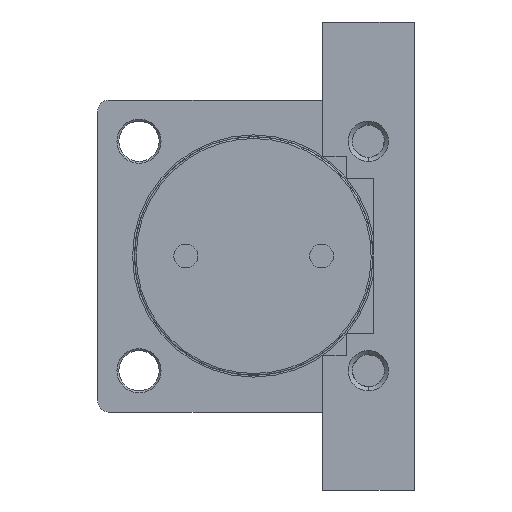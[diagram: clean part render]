
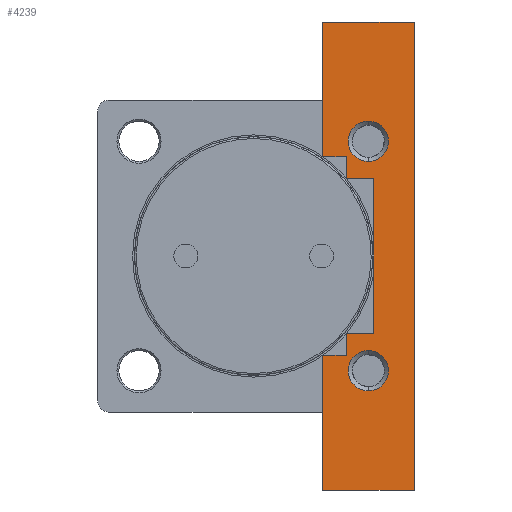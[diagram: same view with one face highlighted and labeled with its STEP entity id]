
A CAD part, left-side view. The second image highlights one B-rep face of the part: STEP entity #4239.
In plain terms, the highlighted planar face has unit normal (1, 0, 0).
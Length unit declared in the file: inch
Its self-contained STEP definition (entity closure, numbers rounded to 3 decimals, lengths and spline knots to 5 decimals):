
#150 = VECTOR ( 'NONE', #2324, 39.37008 ) ;
#483 = LINE ( 'NONE', #2367, #150 ) ;
#717 = CARTESIAN_POINT ( 'NONE',  ( -3.01181, -2.46063, 2.8937 ) ) ;
#722 = VECTOR ( 'NONE', #2027, 39.37008 ) ;
#734 = CIRCLE ( 'NONE', #12806, 0.43307 ) ;
#800 = CARTESIAN_POINT ( 'NONE',  ( -3.01181, -1.47638, 2.12598 ) ) ;
#801 = CARTESIAN_POINT ( 'NONE',  ( -3.01181, -3.44488, 1.65354 ) ) ;
#870 = VECTOR ( 'NONE', #11531, 39.37008 ) ;
#871 = CARTESIAN_POINT ( 'NONE',  ( -3.01181, -2.46063, 2.02756 ) ) ;
#901 = VERTEX_POINT ( 'NONE', #10561 ) ;
#944 = LINE ( 'NONE', #2156, #722 ) ;
#960 = LINE ( 'NONE', #11453, #870 ) ;
#1038 = CARTESIAN_POINT ( 'NONE',  ( -3.01181, -3.44488, -5.01969 ) ) ;
#1412 = CARTESIAN_POINT ( 'NONE',  ( -3.01181, -1.47638, 5.01969 ) ) ;
#1699 = DIRECTION ( 'NONE',  ( 0., 1., 0. ) ) ;
#2027 = DIRECTION ( 'NONE',  ( 0., 0., 1. ) ) ;
#2102 = DIRECTION ( 'NONE',  ( 0., 1., 0. ) ) ;
#2156 = CARTESIAN_POINT ( 'NONE',  ( -3.01181, -1.98819, 5.01969 ) ) ;
#2324 = DIRECTION ( 'NONE',  ( 0., -1., 0. ) ) ;
#2367 = CARTESIAN_POINT ( 'NONE',  ( -3.01181, -3.44488, -2.12598 ) ) ;
#2377 = ORIENTED_EDGE ( 'NONE', *, *, #8111, .T. ) ;
#2452 = ORIENTED_EDGE ( 'NONE', *, *, #10314, .T. ) ;
#2490 = ORIENTED_EDGE ( 'NONE', *, *, #10133, .T. ) ;
#2673 = VERTEX_POINT ( 'NONE', #10627 ) ;
#2735 = EDGE_CURVE ( 'NONE', #3660, #901, #5027, .T. ) ;
#3374 = CARTESIAN_POINT ( 'NONE',  ( -3.01181, -1.47638, -5.01969 ) ) ;
#3478 = CARTESIAN_POINT ( 'NONE',  ( -3.01181, -1.98819, 5.01969 ) ) ;
#3655 = VECTOR ( 'NONE', #11268, 39.37008 ) ;
#3660 = VERTEX_POINT ( 'NONE', #9380 ) ;
#3769 = EDGE_CURVE ( 'NONE', #2673, #5189, #7166, .T. ) ;
#3811 = EDGE_CURVE ( 'NONE', #4754, #14113, #7303, .T. ) ;
#3881 = CARTESIAN_POINT ( 'NONE',  ( -3.01181, -1.47638, 5.01969 ) ) ;
#3957 = EDGE_CURVE ( 'NONE', #11694, #2673, #7638, .T. ) ;
#4166 = AXIS2_PLACEMENT_3D ( 'NONE', #5586, #5355, #5330 ) ;
#4239 = ADVANCED_FACE ( 'NONE', ( #7959, #8013, #7877 ), #5460, .T. ) ;
#4447 = LINE ( 'NONE', #1038, #7365 ) ;
#4513 = VERTEX_POINT ( 'NONE', #3374 ) ;
#4546 = CARTESIAN_POINT ( 'NONE',  ( -3.01181, -1.98819, -2.12598 ) ) ;
#4754 = VERTEX_POINT ( 'NONE', #1412 ) ;
#4949 = VERTEX_POINT ( 'NONE', #871 ) ;
#4979 = ORIENTED_EDGE ( 'NONE', *, *, #11383, .T. ) ;
#5027 = CIRCLE ( 'NONE', #7010, 0.43307 ) ;
#5078 = VERTEX_POINT ( 'NONE', #4546 ) ;
#5189 = VERTEX_POINT ( 'NONE', #8088 ) ;
#5330 = DIRECTION ( 'NONE',  ( 0., 0., -1. ) ) ;
#5355 = DIRECTION ( 'NONE',  ( 1., 0., 0. ) ) ;
#5460 = PLANE ( 'NONE',  #4166 ) ;
#5478 = ORIENTED_EDGE ( 'NONE', *, *, #11099, .T. ) ;
#5586 = CARTESIAN_POINT ( 'NONE',  ( -3.01181, -3.44488, 5.01969 ) ) ;
#6239 = DIRECTION ( 'NONE',  ( 0., -1., 0. ) ) ;
#6243 = CARTESIAN_POINT ( 'NONE',  ( -3.01181, -3.44488, -1.65354 ) ) ;
#7010 = AXIS2_PLACEMENT_3D ( 'NONE', #9181, #9679, #9854 ) ;
#7059 = ORIENTED_EDGE ( 'NONE', *, *, #8154, .T. ) ;
#7061 = CARTESIAN_POINT ( 'NONE',  ( -3.01181, -3.44488, 5.01969 ) ) ;
#7166 = LINE ( 'NONE', #9049, #7337 ) ;
#7259 = DIRECTION ( 'NONE',  ( 0., 0., 1. ) ) ;
#7291 = CARTESIAN_POINT ( 'NONE',  ( -3.01181, -1.47638, 5.01969 ) ) ;
#7303 = LINE ( 'NONE', #8726, #7423 ) ;
#7337 = VECTOR ( 'NONE', #8815, 39.37008 ) ;
#7365 = VECTOR ( 'NONE', #2102, 39.37008 ) ;
#7366 = CARTESIAN_POINT ( 'NONE',  ( -3.01181, -3.44488, 2.12598 ) ) ;
#7423 = VECTOR ( 'NONE', #8613, 39.37008 ) ;
#7530 = VECTOR ( 'NONE', #6239, 39.37008 ) ;
#7555 = VERTEX_POINT ( 'NONE', #14266 ) ;
#7638 = LINE ( 'NONE', #6243, #7530 ) ;
#7657 = DIRECTION ( 'NONE',  ( 0., 1., 0. ) ) ;
#7724 = ORIENTED_EDGE ( 'NONE', *, *, #9700, .F. ) ;
#7780 = ORIENTED_EDGE ( 'NONE', *, *, #11332, .T. ) ;
#7877 = FACE_OUTER_BOUND ( 'NONE', #12377, .T. ) ;
#7959 = FACE_BOUND ( 'NONE', #11283, .T. ) ;
#8013 = FACE_BOUND ( 'NONE', #12572, .T. ) ;
#8088 = CARTESIAN_POINT ( 'NONE',  ( -3.01181, -2.57874, 1.65354 ) ) ;
#8111 = EDGE_CURVE ( 'NONE', #7555, #13026, #14206, .T. ) ;
#8154 = EDGE_CURVE ( 'NONE', #13026, #4754, #14064, .T. ) ;
#8257 = ORIENTED_EDGE ( 'NONE', *, *, #3957, .T. ) ;
#8462 = LINE ( 'NONE', #801, #12051 ) ;
#8516 = DIRECTION ( 'NONE',  ( 0., 0., 1. ) ) ;
#8531 = DIRECTION ( 'NONE',  ( -1., 0., 0. ) ) ;
#8535 = CARTESIAN_POINT ( 'NONE',  ( -3.01181, -2.46063, 2.46063 ) ) ;
#8560 = ORIENTED_EDGE ( 'NONE', *, *, #11143, .T. ) ;
#8613 = DIRECTION ( 'NONE',  ( 0., -1., 0. ) ) ;
#8726 = CARTESIAN_POINT ( 'NONE',  ( -3.01181, -3.44488, 5.01969 ) ) ;
#8790 = CARTESIAN_POINT ( 'NONE',  ( -3.01181, -1.98819, 1.65354 ) ) ;
#8815 = DIRECTION ( 'NONE',  ( 0., 0., 1. ) ) ;
#9003 = DIRECTION ( 'NONE',  ( 0., 0., 1. ) ) ;
#9014 = DIRECTION ( 'NONE',  ( -1., 0., 0. ) ) ;
#9016 = CARTESIAN_POINT ( 'NONE',  ( -3.01181, -2.46063, 2.46063 ) ) ;
#9049 = CARTESIAN_POINT ( 'NONE',  ( -3.01181, -2.57874, 5.01969 ) ) ;
#9181 = CARTESIAN_POINT ( 'NONE',  ( -3.01181, -2.46063, -2.46063 ) ) ;
#9219 = ORIENTED_EDGE ( 'NONE', *, *, #3769, .T. ) ;
#9271 = ORIENTED_EDGE ( 'NONE', *, *, #9771, .T. ) ;
#9380 = CARTESIAN_POINT ( 'NONE',  ( -3.01181, -2.46063, -2.8937 ) ) ;
#9469 = LINE ( 'NONE', #3478, #3655 ) ;
#9679 = DIRECTION ( 'NONE',  ( -1., 0., 0. ) ) ;
#9700 = EDGE_CURVE ( 'NONE', #10020, #14113, #960, .T. ) ;
#9768 = ORIENTED_EDGE ( 'NONE', *, *, #2735, .T. ) ;
#9771 = EDGE_CURVE ( 'NONE', #901, #3660, #734, .T. ) ;
#9795 = CARTESIAN_POINT ( 'NONE',  ( -3.01181, -3.44488, -5.01969 ) ) ;
#9854 = DIRECTION ( 'NONE',  ( 0., 0., 1. ) ) ;
#10020 = VERTEX_POINT ( 'NONE', #9795 ) ;
#10133 = EDGE_CURVE ( 'NONE', #13054, #4949, #14119, .T. ) ;
#10314 = EDGE_CURVE ( 'NONE', #4949, #13054, #13045, .T. ) ;
#10561 = CARTESIAN_POINT ( 'NONE',  ( -3.01181, -2.46063, -2.02756 ) ) ;
#10627 = CARTESIAN_POINT ( 'NONE',  ( -3.01181, -2.57874, -1.65354 ) ) ;
#10820 = AXIS2_PLACEMENT_3D ( 'NONE', #9016, #9014, #9003 ) ;
#10994 = DIRECTION ( 'NONE',  ( 0., 0., 1. ) ) ;
#11012 = DIRECTION ( 'NONE',  ( -1., 0., 0. ) ) ;
#11015 = CARTESIAN_POINT ( 'NONE',  ( -3.01181, -2.46063, -2.46063 ) ) ;
#11038 = ORIENTED_EDGE ( 'NONE', *, *, #11310, .T. ) ;
#11099 = EDGE_CURVE ( 'NONE', #12154, #5078, #483, .T. ) ;
#11143 = EDGE_CURVE ( 'NONE', #5078, #11694, #944, .T. ) ;
#11268 = DIRECTION ( 'NONE',  ( 0., 0., 1. ) ) ;
#11283 = EDGE_LOOP ( 'NONE', ( #2490, #2452 ) ) ;
#11310 = EDGE_CURVE ( 'NONE', #13726, #7555, #9469, .T. ) ;
#11332 = EDGE_CURVE ( 'NONE', #4513, #12154, #13916, .T. ) ;
#11383 = EDGE_CURVE ( 'NONE', #5189, #13726, #8462, .T. ) ;
#11402 = EDGE_CURVE ( 'NONE', #10020, #4513, #4447, .T. ) ;
#11453 = CARTESIAN_POINT ( 'NONE',  ( -3.01181, -3.44488, 5.01969 ) ) ;
#11531 = DIRECTION ( 'NONE',  ( 0., 0., 1. ) ) ;
#11694 = VERTEX_POINT ( 'NONE', #13547 ) ;
#11859 = ORIENTED_EDGE ( 'NONE', *, *, #11402, .T. ) ;
#12051 = VECTOR ( 'NONE', #1699, 39.37008 ) ;
#12101 = CARTESIAN_POINT ( 'NONE',  ( -3.01181, -1.47638, -2.12598 ) ) ;
#12139 = DIRECTION ( 'NONE',  ( 0., 0., 1. ) ) ;
#12149 = ORIENTED_EDGE ( 'NONE', *, *, #3811, .T. ) ;
#12154 = VERTEX_POINT ( 'NONE', #12101 ) ;
#12377 = EDGE_LOOP ( 'NONE', ( #2377, #7059, #12149, #7724, #11859, #7780, #5478, #8560, #8257, #9219, #4979, #11038 ) ) ;
#12572 = EDGE_LOOP ( 'NONE', ( #9271, #9768 ) ) ;
#12806 = AXIS2_PLACEMENT_3D ( 'NONE', #11015, #11012, #10994 ) ;
#13026 = VERTEX_POINT ( 'NONE', #800 ) ;
#13045 = CIRCLE ( 'NONE', #13687, 0.43307 ) ;
#13054 = VERTEX_POINT ( 'NONE', #717 ) ;
#13547 = CARTESIAN_POINT ( 'NONE',  ( -3.01181, -1.98819, -1.65354 ) ) ;
#13581 = VECTOR ( 'NONE', #12139, 39.37008 ) ;
#13687 = AXIS2_PLACEMENT_3D ( 'NONE', #8535, #8531, #8516 ) ;
#13726 = VERTEX_POINT ( 'NONE', #8790 ) ;
#13916 = LINE ( 'NONE', #3881, #13581 ) ;
#14007 = VECTOR ( 'NONE', #7259, 39.37008 ) ;
#14064 = LINE ( 'NONE', #7291, #14007 ) ;
#14113 = VERTEX_POINT ( 'NONE', #7061 ) ;
#14119 = CIRCLE ( 'NONE', #10820, 0.43307 ) ;
#14206 = LINE ( 'NONE', #7366, #14286 ) ;
#14266 = CARTESIAN_POINT ( 'NONE',  ( -3.01181, -1.98819, 2.12598 ) ) ;
#14286 = VECTOR ( 'NONE', #7657, 39.37008 ) ;
